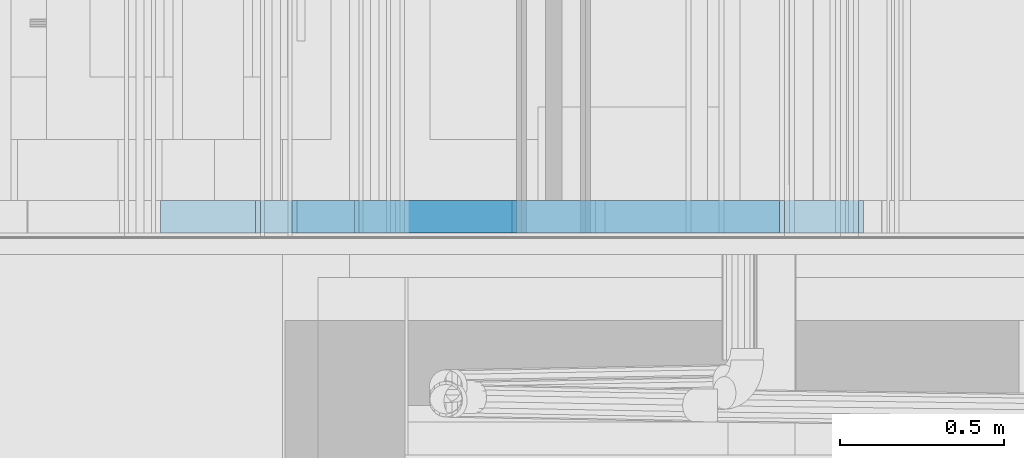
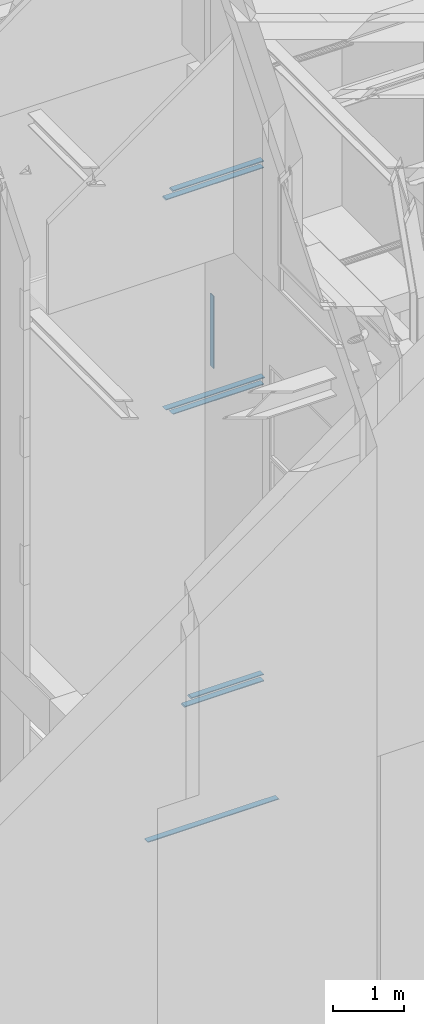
# One storey, part 40 of 583: 8 building element parts, 5 elements without a shape of their own.
"""IFC2X3 building model written with IfcOpenShell, lengths in metres."""

import ifcopenshell
import ifcopenshell.guid

model = None  # the IFC model being written
_history = None  # IfcOwnerHistory: only IFC2X3 demands one
_inside = {}  # id of a spatial element -> (the spatial element, [elements in it])
_under = {}  # id of a project, library or spatial element -> (it, [spatial elements below it])
_declared = {}  # id of a project -> (the project, [libraries it declares])
_typed = {}  # id of a type object -> (the type object, [elements of that type])
_made_of = {}  # id of a material, layer set ... -> (it, [elements and type objects made of it])


def new_model(schema):
    """Start an empty IFC model of exactly this schema.

    Asked for "IFC4X3", IfcOpenShell would pick the latest addendum, in which some entities
    have other attributes; the version numbers below select the first issue.
    IFC2X3 requires an IfcOwnerHistory on every rooted entity: one is made here for all.
    """
    global model, _history
    if schema == "IFC4X3":
        model = ifcopenshell.file(schema_version=(4, 3, 0, 0))
    else:
        model = ifcopenshell.file(schema=schema)
    _inside.clear()
    _under.clear()
    _declared.clear()
    _typed.clear()
    _made_of.clear()
    _history = None
    if model.schema == "IFC2X3":
        org = make("IfcOrganization", Name="unknown")
        user = make(
            "IfcPersonAndOrganization",
            ThePerson=make("IfcPerson", FamilyName="unknown"),
            TheOrganization=org,
        )
        app = make(
            "IfcApplication",
            ApplicationDeveloper=org,
            Version="unknown",
            ApplicationFullName="unknown",
            ApplicationIdentifier="unknown",
        )
        _history = make(
            "IfcOwnerHistory",
            OwningUser=user,
            OwningApplication=app,
            ChangeAction="ADDED",
            CreationDate=0,
        )
    return model


def make(cls, **values):
    """One entity of the class cls with the attributes given. An attribute that is None is left unset."""
    return model.create_entity(
        cls, **{name: value for name, value in values.items() if value is not None}
    )


def entity(cls, *values):
    """Any entity or typed value of the class cls, its attributes in the order of the schema. None: left unset."""
    e = model.create_entity(cls)
    for i, value in enumerate(values):
        if value is not None:
            e[i] = value
    return e


def rooted(cls, **values):
    """An entity with a GlobalId (a new one), such as an element, a storey or a relation."""
    return make(cls, GlobalId=ifcopenshell.guid.new(), OwnerHistory=_history, **values)


def si_unit(unit_type, name, prefix=None):
    """IfcSIUnit, for example si_unit("LENGTHUNIT", "METRE", prefix="MILLI")."""
    return make("IfcSIUnit", UnitType=unit_type, Prefix=prefix, Name=name)


def converted_unit(unit_type, name, factor, base, dimensions=None, offset=None):
    """IfcConversionBasedUnit, such as the inch: factor (a typed value) times the base unit."""
    return make(
        "IfcConversionBasedUnit"
        if offset is None
        else "IfcConversionBasedUnitWithOffset",
        ConversionOffset=offset,
        Dimensions=None
        if dimensions is None
        else entity("IfcDimensionalExponents", *dimensions),
        UnitType=unit_type,
        Name=name,
        ConversionFactor=make(
            "IfcMeasureWithUnit", ValueComponent=factor, UnitComponent=base
        ),
    )


def derived_unit(unit_type, elements):
    """IfcDerivedUnit: a product of units, each with its exponent."""
    return make(
        "IfcDerivedUnit",
        Elements=[
            make("IfcDerivedUnitElement", Unit=unit, Exponent=power)
            for unit, power in elements
        ],
        UnitType=unit_type,
    )


def money_unit(currency):
    """IfcMonetaryUnit."""
    return make("IfcMonetaryUnit", Currency=currency)


def assignment(units):
    """IfcUnitAssignment: the units of a project."""
    return None if units is None else make("IfcUnitAssignment", Units=units)


def point(xyz):
    """IfcCartesianPoint."""
    return None if xyz is None else make("IfcCartesianPoint", Coordinates=xyz)


def direction(xyz):
    """IfcDirection."""
    return None if xyz is None else make("IfcDirection", DirectionRatios=xyz)


def frame(location, z_axis=None, x_axis=None):
    """IfcAxis2Placement3D, a coordinate frame: its origin and axes. An axis left out is left unset."""
    return make(
        "IfcAxis2Placement3D",
        Location=point(location),
        Axis=direction(z_axis),
        RefDirection=direction(x_axis),
    )


def frame_2d(location, x_axis=None):
    """IfcAxis2Placement2D, a coordinate frame in the plane: its origin and x axis."""
    return make(
        "IfcAxis2Placement2D", Location=point(location), RefDirection=direction(x_axis)
    )


def origin_with_axes():
    """The frame at (0, 0, 0) with the z axis (0, 0, 1) and the x axis (1, 0, 0) written out."""
    return frame((0.0, 0.0, 0.0), z_axis=(0.0, 0.0, 1.0), x_axis=(1.0, 0.0, 0.0))


def place(relative_to, where):
    """IfcLocalPlacement: puts the frame where relative to a parent placement (None: the world)."""
    return make(
        "IfcLocalPlacement", PlacementRelTo=relative_to, RelativePlacement=where
    )


def context(
    kind, dimensions, precision=None, world=None, true_north=None, identifier=None
):
    """IfcGeometricRepresentationContext, for example the 3D "Model" context."""
    return make(
        "IfcGeometricRepresentationContext",
        ContextIdentifier=identifier,
        ContextType=kind,
        CoordinateSpaceDimension=dimensions,
        Precision=precision,
        WorldCoordinateSystem=world,
        TrueNorth=true_north,
    )


def subcontext(parent, identifier, kind, view, scale=None):
    """IfcGeometricRepresentationSubContext, for example "Body" below "Model"."""
    return make(
        "IfcGeometricRepresentationSubContext",
        ContextIdentifier=identifier,
        ContextType=kind,
        ParentContext=parent,
        TargetScale=scale,
        TargetView=view,
    )


def project(units=None, contexts=None):
    """IfcProject with its units and contexts."""
    return rooted(
        "IfcProject",
        Name="project",
        RepresentationContexts=contexts,
        UnitsInContext=assignment(units),
    )


def spatial(cls, under=None, at=None, **own):
    """A site, building, storey or space (cls), placed at a placement, below another one or the project."""
    s = rooted(cls, ObjectPlacement=at, **own)
    if under is not None:
        _under.setdefault(under.id(), (under, []))[1].append(s)
    return s


def polyline(points):
    """IfcPolyline through the points."""
    return make("IfcPolyline", Points=[point(p) for p in points])


def profile(cls, at=None, kind="AREA", **sizes):
    """A parametric profile (cls). Its sizes go by their IFC names, for example OverallWidth=200.0."""
    return make(cls, ProfileType=kind, Position=at, **sizes)


def rectangle(**sizes):
    """IfcRectangleProfileDef."""
    return profile("IfcRectangleProfileDef", **sizes)


def outline(outer, holes=None, kind="AREA"):
    """IfcArbitraryClosedProfileDef: a profile drawn as a closed curve; with holes, ...WithVoids."""
    if holes is None:
        return make("IfcArbitraryClosedProfileDef", ProfileType=kind, OuterCurve=outer)
    return make(
        "IfcArbitraryProfileDefWithVoids",
        ProfileType=kind,
        OuterCurve=outer,
        InnerCurves=holes,
    )


def extrude(swept, where, along, depth):
    """IfcExtrudedAreaSolid: the profile swept, set in the frame where, extruded along a direction by depth."""
    return make(
        "IfcExtrudedAreaSolid",
        SweptArea=swept,
        Position=where,
        ExtrudedDirection=direction(along),
        Depth=depth,
    )


def shape(context_of_items, identifier, shape_type, items):
    """IfcShapeRepresentation: the items that make up one representation, for example the "Body"."""
    return make(
        "IfcShapeRepresentation",
        ContextOfItems=context_of_items,
        RepresentationIdentifier=identifier,
        RepresentationType=shape_type,
        Items=items,
    )


def material(Name=None, Category=None):
    """IfcMaterial."""
    return make("IfcMaterial", Name=Name, Category=Category)


def made_of(thing, what):
    """Note that an element or type object is made of a material, layer set ...; save() writes the relation."""
    if what is not None:
        _made_of.setdefault(what.id(), (what, []))[1].append(thing)
    return thing


def type_object(cls, material=None, **own):
    """A type object (cls), such as IfcWallType, which elements share."""
    return made_of(rooted(cls, **own), material)


def element(
    cls,
    number,
    at=None,
    inside=None,
    cuts=None,
    type_object=None,
    material=None,
    context=None,
    identifier="Body",
    shape_type=None,
    held_by="IfcProductDefinitionShape",
    body=None,
    shapes=None,
    **own,
):
    """One element of the class cls, such as IfcWall. Its Tag is "e" and its number.

    at: its placement. inside: the storey or other place that contains it. cuts: it is an
    opening in that element (IfcRelVoidsElement). A single representation is given by context,
    identifier, shape_type and body (its items); several are given by shapes. held_by: the class
    of the entity that holds the representations. save() writes the other relations.
    """
    e = rooted(cls, Tag="e%d" % number, ObjectPlacement=at, **own)
    if body is not None:
        shapes = [shape(context, identifier, shape_type, body)]
    if shapes is not None:
        e.Representation = make(held_by, Representations=shapes)
    if inside is not None:
        _inside.setdefault(inside.id(), (inside, []))[1].append(e)
    if cuts is not None:
        rooted(
            "IfcRelVoidsElement", RelatingBuildingElement=cuts, RelatedOpeningElement=e
        )
    if type_object is not None:
        _typed.setdefault(type_object.id(), (type_object, []))[1].append(e)
    return made_of(e, material)


def aggregate(whole, parts):
    """IfcRelAggregates: a whole, such as a stair, and the parts it consists of."""
    return rooted("IfcRelAggregates", RelatingObject=whole, RelatedObjects=parts)


def save(model, path):
    """Write the relations noted so far, then the file.

    IfcRelAggregates (storeys below a building ...), IfcRelContainedInSpatialStructure (elements
    in a storey), IfcRelDefinesByType, IfcRelAssociatesMaterial and IfcRelDeclares: one each for
    every whole, place, type object, material and project.
    """
    for whole, parts in _under.values():
        aggregate(whole, parts)
    for where, things in _inside.values():
        rooted(
            "IfcRelContainedInSpatialStructure",
            RelatedElements=things,
            RelatingStructure=where,
        )
    for kind, things in _typed.values():
        rooted("IfcRelDefinesByType", RelatedObjects=things, RelatingType=kind)
    for what, things in _made_of.values():
        rooted("IfcRelAssociatesMaterial", RelatedObjects=things, RelatingMaterial=what)
    for by, libraries in _declared.values():
        rooted("IfcRelDeclares", RelatingContext=by, RelatedDefinitions=libraries)
    model.write(path)


model = new_model("IFC2X3")

# Units and contexts
model_context = context("Model", 3, precision=1e-05, world=origin_with_axes(), true_north=direction((0.0, 1.0)))
body_context = subcontext(model_context, "Body", "Model", "MODEL_VIEW", scale=1.0)
ifc_project = project(units=[si_unit("LENGTHUNIT", "METRE"), si_unit("AREAUNIT", "SQUARE_METRE"), si_unit("VOLUMEUNIT", "CUBIC_METRE"), si_unit("ABSORBEDDOSEUNIT", "GRAY"), si_unit("AMOUNTOFSUBSTANCEUNIT", "MOLE"), si_unit("DOSEEQUIVALENTUNIT", "SIEVERT"), si_unit("ELECTRICCAPACITANCEUNIT", "FARAD"), si_unit("ELECTRICCHARGEUNIT", "COULOMB"), si_unit("ELECTRICCONDUCTANCEUNIT", "SIEMENS"), si_unit("ELECTRICCURRENTUNIT", "AMPERE"), si_unit("ELECTRICRESISTANCEUNIT", "OHM"), si_unit("ELECTRICVOLTAGEUNIT", "VOLT"), si_unit("ENERGYUNIT", "JOULE"), si_unit("FORCEUNIT", "NEWTON"), si_unit("FREQUENCYUNIT", "HERTZ"), si_unit("ILLUMINANCEUNIT", "LUX"), si_unit("INDUCTANCEUNIT", "HENRY"), si_unit("LUMINOUSFLUXUNIT", "LUMEN"), si_unit("LUMINOUSINTENSITYUNIT", "CANDELA"), si_unit("MAGNETICFLUXDENSITYUNIT", "TESLA"), si_unit("MAGNETICFLUXUNIT", "WEBER"), si_unit("MASSUNIT", "GRAM"), converted_unit("PLANEANGLEUNIT", "degree", entity("IfcReal", 0.0174532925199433), si_unit("PLANEANGLEUNIT", "RADIAN"), dimensions=[0, 0, 0, 0, 0, 0, 0]), si_unit("POWERUNIT", "WATT"), si_unit("PRESSUREUNIT", "PASCAL"), si_unit("RADIOACTIVITYUNIT", "BECQUEREL"), si_unit("SOLIDANGLEUNIT", "STERADIAN"), si_unit("THERMODYNAMICTEMPERATUREUNIT", "KELVIN"), si_unit("TIMEUNIT", "SECOND"), derived_unit("ACCELERATIONUNIT", [(si_unit("LENGTHUNIT", "METRE"), 1), (si_unit("TIMEUNIT", "SECOND"), -2)]), derived_unit("ANGULARVELOCITYUNIT", [(converted_unit("PLANEANGLEUNIT", "degree", entity("IfcReal", 0.0174532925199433), si_unit("PLANEANGLEUNIT", "RADIAN"), dimensions=[0, 0, 0, 0, 0, 0, 0]), 1), (si_unit("TIMEUNIT", "SECOND"), -1)]), derived_unit("CURVATUREUNIT", [(converted_unit("PLANEANGLEUNIT", "degree", entity("IfcReal", 0.0174532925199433), si_unit("PLANEANGLEUNIT", "RADIAN"), dimensions=[0, 0, 0, 0, 0, 0, 0]), 1), (si_unit("LENGTHUNIT", "METRE"), -1)]), derived_unit("DYNAMICVISCOSITYUNIT", [(si_unit("PRESSUREUNIT", "PASCAL"), 1), (si_unit("TIMEUNIT", "SECOND"), 1)]), derived_unit("HEATFLUXDENSITYUNIT", [(si_unit("POWERUNIT", "WATT"), 1), (si_unit("LENGTHUNIT", "METRE"), -2)]), derived_unit("HEATINGVALUEUNIT", [(si_unit("ENERGYUNIT", "JOULE"), 1), (si_unit("MASSUNIT", "GRAM"), -1)]), derived_unit("INTEGERCOUNTRATEUNIT", [(si_unit("TIMEUNIT", "SECOND"), -1)]), derived_unit("IONCONCENTRATIONUNIT", [(si_unit("MASSUNIT", "GRAM"), 1), (si_unit("VOLUMEUNIT", "CUBIC_METRE"), -1)]), derived_unit("ISOTHERMALMOISTURECAPACITYUNIT", [(si_unit("VOLUMEUNIT", "CUBIC_METRE"), 1), (si_unit("MASSUNIT", "GRAM"), -1)]), derived_unit("KINEMATICVISCOSITYUNIT", [(si_unit("AREAUNIT", "SQUARE_METRE"), 1), (si_unit("TIMEUNIT", "SECOND"), -1)]), derived_unit("LINEARFORCEUNIT", [(si_unit("FORCEUNIT", "NEWTON"), 1), (si_unit("LENGTHUNIT", "METRE"), -1)]), derived_unit("LINEARMOMENTUNIT", [(si_unit("FORCEUNIT", "NEWTON"), 1), (si_unit("LENGTHUNIT", "METRE"), -1)]), derived_unit("LINEARSTIFFNESSUNIT", [(si_unit("FORCEUNIT", "NEWTON"), 1), (si_unit("LENGTHUNIT", "METRE"), -1)]), derived_unit("LINEARVELOCITYUNIT", [(si_unit("LENGTHUNIT", "METRE"), 1), (si_unit("TIMEUNIT", "SECOND"), -1)]), derived_unit("LUMINOUSINTENSITYDISTRIBUTIONUNIT", [(si_unit("LUMINOUSINTENSITYUNIT", "CANDELA"), 1), (si_unit("LUMINOUSFLUXUNIT", "LUMEN"), -1)]), derived_unit("MASSDENSITYUNIT", [(si_unit("MASSUNIT", "GRAM"), 1), (si_unit("VOLUMEUNIT", "CUBIC_METRE"), -1)]), derived_unit("MASSFLOWRATEUNIT", [(si_unit("MASSUNIT", "GRAM"), 1), (si_unit("TIMEUNIT", "SECOND"), -1)]), derived_unit("MASSPERLENGTHUNIT", [(si_unit("MASSUNIT", "GRAM"), 1), (si_unit("LENGTHUNIT", "METRE"), -1)]), derived_unit("MODULUSOFELASTICITYUNIT", [(si_unit("FORCEUNIT", "NEWTON"), 1), (si_unit("AREAUNIT", "SQUARE_METRE"), -1)]), derived_unit("MODULUSOFLINEARSUBGRADEREACTIONUNIT", [(si_unit("FORCEUNIT", "NEWTON"), 1), (si_unit("LENGTHUNIT", "METRE"), -2)]), derived_unit("MODULUSOFROTATIONALSUBGRADEREACTIONUNIT", [(si_unit("FORCEUNIT", "NEWTON"), 1), (si_unit("LENGTHUNIT", "METRE"), 1)]), derived_unit("MODULUSOFSUBGRADEREACTIONUNIT", [(si_unit("FORCEUNIT", "NEWTON"), 1), (si_unit("VOLUMEUNIT", "CUBIC_METRE"), -1)]), derived_unit("MOISTUREDIFFUSIVITYUNIT", [(si_unit("VOLUMEUNIT", "CUBIC_METRE"), 1), (si_unit("TIMEUNIT", "SECOND"), -1)]), derived_unit("MOLECULARWEIGHTUNIT", [(si_unit("MASSUNIT", "GRAM"), 1), (si_unit("AMOUNTOFSUBSTANCEUNIT", "MOLE"), -1)]), derived_unit("PLANARFORCEUNIT", [(si_unit("FORCEUNIT", "NEWTON"), 1), (si_unit("LENGTHUNIT", "METRE"), -2)]), derived_unit("ROTATIONALFREQUENCYUNIT", [(si_unit("TIMEUNIT", "SECOND"), -1)]), derived_unit("ROTATIONALMASSUNIT", [(si_unit("MASSUNIT", "GRAM"), 1), (si_unit("LENGTHUNIT", "METRE"), 2)]), derived_unit("ROTATIONALSTIFFNESSUNIT", [(si_unit("FORCEUNIT", "NEWTON"), 1), (si_unit("LENGTHUNIT", "METRE"), 1), (converted_unit("PLANEANGLEUNIT", "degree", entity("IfcReal", 0.0174532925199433), si_unit("PLANEANGLEUNIT", "RADIAN"), dimensions=[0, 0, 0, 0, 0, 0, 0]), -1)]), derived_unit("SECTIONAREAINTEGRALUNIT", [(si_unit("LENGTHUNIT", "METRE"), 5)]), derived_unit("SECTIONMODULUSUNIT", [(si_unit("LENGTHUNIT", "METRE"), 3)]), derived_unit("SHEARMODULUSUNIT", [(si_unit("FORCEUNIT", "NEWTON"), 1), (si_unit("AREAUNIT", "SQUARE_METRE"), -1)]), derived_unit("SOUNDPOWERUNIT", [(si_unit("ENERGYUNIT", "JOULE"), 1), (si_unit("TIMEUNIT", "SECOND"), -1)]), derived_unit("SPECIFICHEATCAPACITYUNIT", [(si_unit("FORCEUNIT", "NEWTON"), 1), (si_unit("MASSUNIT", "GRAM"), -1), (si_unit("THERMODYNAMICTEMPERATUREUNIT", "KELVIN"), -1)]), derived_unit("TEMPERATUREGRADIENTUNIT", [(si_unit("THERMODYNAMICTEMPERATUREUNIT", "KELVIN"), 1), (si_unit("LENGTHUNIT", "METRE"), -1)]), derived_unit("THERMALADMITTANCEUNIT", [(si_unit("POWERUNIT", "WATT"), 1), (si_unit("AREAUNIT", "SQUARE_METRE"), -1), (si_unit("THERMODYNAMICTEMPERATUREUNIT", "KELVIN"), -1)]), derived_unit("THERMALCONDUCTANCEUNIT", [(si_unit("POWERUNIT", "WATT"), 1), (si_unit("LENGTHUNIT", "METRE"), -1), (si_unit("THERMODYNAMICTEMPERATUREUNIT", "KELVIN"), -1)]), derived_unit("THERMALEXPANSIONCOEFFICIENTUNIT", [(si_unit("THERMODYNAMICTEMPERATUREUNIT", "KELVIN"), -1)]), derived_unit("THERMALRESISTANCEUNIT", [(si_unit("AREAUNIT", "SQUARE_METRE"), 1), (si_unit("POWERUNIT", "WATT"), -1)]), derived_unit("THERMALTRANSMITTANCEUNIT", [(si_unit("POWERUNIT", "WATT"), 1), (si_unit("AREAUNIT", "SQUARE_METRE"), -1), (si_unit("THERMODYNAMICTEMPERATUREUNIT", "KELVIN"), -1)]), derived_unit("TORQUEUNIT", [(si_unit("FORCEUNIT", "NEWTON"), 1), (si_unit("LENGTHUNIT", "METRE"), 1)]), derived_unit("VAPORPERMEABILITYUNIT", [(si_unit("MASSUNIT", "GRAM"), 1), (si_unit("TIMEUNIT", "SECOND"), -1)]), derived_unit("VOLUMETRICFLOWRATEUNIT", [(si_unit("VOLUMEUNIT", "CUBIC_METRE"), 1), (si_unit("TIMEUNIT", "SECOND"), -1)]), derived_unit("WARPINGCONSTANTUNIT", [(si_unit("LENGTHUNIT", "METRE"), 6)]), derived_unit("WARPINGMOMENTUNIT", [(si_unit("FORCEUNIT", "NEWTON"), 1), (si_unit("LENGTHUNIT", "METRE"), 2)]), money_unit("GBP")], contexts=[model_context])

# Site, building, storey
site_placement = place(None, origin_with_axes())
site = spatial("IfcSite", under=ifc_project, at=site_placement, Name="Site", CompositionType="ELEMENT")
building_placement = place(site_placement, origin_with_axes())
building = spatial("IfcBuilding", under=site, at=building_placement, Name="Building01", CompositionType="ELEMENT")
storey_placement = place(building_placement, frame((0.0, 0.0, 20.78), z_axis=(0.0, 0.0, 1.0), x_axis=(1.0, 0.0, 0.0)))
storey = spatial("IfcBuildingStorey", under=building, at=storey_placement, Name="RL", CompositionType="ELEMENT", Elevation=20.78)

# Wall, building element part
wall_type_1 = type_object("IfcWallType", Name="SHE_A-Walls_Type01c_Partywall_225mm_twin_tall", PredefinedType="NOTDEFINED")
wall_1_placement = place(storey_placement, frame((4.302428, 5.15, -8.492), z_axis=(0.0, 1.0, 0.0), x_axis=(0.0, 0.0, 1.0)))
wall_1 = element("IfcWall", 1, at=wall_1_placement, inside=storey, type_object=wall_type_1, Name="1C", ObjectType="SHE_A-Walls_Type01c_Partywall_225mm_twin_tall")
ifc_material = material(Name="A_BSUK_Walls_Timber")
building_element_part_1_placement = place(wall_1_placement, origin_with_axes())
building_element_part_1 = element("IfcBuildingElementPart", 2, at=building_element_part_1_placement, material=ifc_material, Name="7", context=body_context, shape_type="SweptSolid", body=[
    extrude(rectangle(XDim=1.2375, YDim=0.015, at=frame_2d((0.46575, -0.1455), x_axis=(-1.0, 0.0))), frame((0.0, 0.0, 0.015), z_axis=(0.0, 0.0, 1.0), x_axis=(1.0, 0.0, 0.0)), (0.0, 0.0, 1.0), 0.1),
])
aggregate(wall_1, [building_element_part_1])

wall_2_placement = place(storey_placement, frame((0.306, 5.15, -16.258), z_axis=(0.0, 1.0, 0.0), x_axis=(1.0, 0.0, 0.0)))
wall_2 = element("IfcWall", 3, at=wall_2_placement, inside=storey, type_object=wall_type_1, Name="1C", ObjectType="SHE_A-Walls_Type01c_Partywall_225mm_twin_tall")
building_element_part_2_placement = place(wall_2_placement, origin_with_axes())
building_element_part_2 = element("IfcBuildingElementPart", 4, at=building_element_part_2_placement, material=ifc_material, Name="8", context=body_context, shape_type="SweptSolid", body=[
    extrude(outline(polyline([(4.914, 0.152), (2.774286, 0.152), (2.774286, 0.137), (4.899, 0.137), (4.914, 0.152)])), frame((0.0, 0.0, 0.015), z_axis=(0.0, 0.0, 1.0), x_axis=(1.0, 0.0, 0.0)), (0.0, 0.0, 1.0), 0.1),
])
aggregate(wall_2, [building_element_part_2])

# Wall, building element parts
wall_type_2 = type_object("IfcWallType", Name="SHE_A-Walls_Type05a_Partition_95mm_tall", PredefinedType="NOTDEFINED")
wall_3_placement = place(storey_placement, frame((3.42, 5.15, -5.4325), z_axis=(0.0, 1.0, 0.0), x_axis=(1.0, 0.0, 0.0)))
wall_3 = element("IfcWall", 5, at=wall_3_placement, inside=storey, type_object=wall_type_2, Name="5A", ObjectType="SHE_A-Walls_Type05a_Partition_95mm_tall")
placement_1 = place(wall_3_placement, origin_with_axes())
building_element_part_3 = element("IfcBuildingElementPart", 6, at=placement_1, material=ifc_material, Name="2", context=body_context, shape_type="SweptSolid", body=[
    extrude(outline(polyline([(1.545, 0.05), (-0.05, 0.05), (-0.035, 0.035), (1.545, 0.035), (1.545, 0.05)])), frame((0.0, 0.0, 0.015), z_axis=(0.0, 0.0, 1.0), x_axis=(1.0, 0.0, 0.0)), (0.0, 0.0, 1.0), 0.1),
])
building_element_part_4 = element("IfcBuildingElementPart", 7, at=placement_1, material=ifc_material, Name="3", context=body_context, shape_type="SweptSolid", body=[
    extrude(outline(polyline([(1.545, -0.06), (0.06, -0.06), (0.075, -0.075), (1.545, -0.075), (1.545, -0.06)])), frame((0.0, 0.0, 0.015), z_axis=(0.0, 0.0, 1.0), x_axis=(1.0, 0.0, 0.0)), (0.0, 0.0, 1.0), 0.1),
])
aggregate(wall_3, [building_element_part_3, building_element_part_4])

wall_4_placement = place(storey_placement, frame((3.42, 5.15, -9.127464), z_axis=(0.0, 1.0, 0.0), x_axis=(-1.0, 0.0, 0.0)))
wall_4 = element("IfcWall", 8, at=wall_4_placement, inside=storey, type_object=wall_type_2, Name="5A", ObjectType="SHE_A-Walls_Type05a_Partition_95mm_tall")
placement_2 = place(wall_4_placement, origin_with_axes())
building_element_part_5 = element("IfcBuildingElementPart", 9, at=placement_2, material=ifc_material, Name="2", context=body_context, shape_type="SweptSolid", body=[
    extrude(outline(polyline([(-1.56, 0.035), (0.035, 0.035), (0.05, 0.05), (-1.56, 0.05), (-1.56, 0.035)])), frame((0.0, 0.0, 0.015), z_axis=(0.0, 0.0, 1.0), x_axis=(1.0, 0.0, 0.0)), (0.0, 0.0, 1.0), 0.1),
])
building_element_part_6 = element("IfcBuildingElementPart", 10, at=placement_2, material=ifc_material, Name="3", context=body_context, shape_type="SweptSolid", body=[
    extrude(outline(polyline([(-1.545, -0.075), (-0.075, -0.075), (-0.06, -0.06), (-1.545, -0.06), (-1.545, -0.075)])), frame((0.0, 0.0, 0.015), z_axis=(0.0, 0.0, 1.0), x_axis=(1.0, 0.0, 0.0)), (0.0, 0.0, 1.0), 0.1),
])
aggregate(wall_4, [building_element_part_5, building_element_part_6])

wall_5_placement = place(storey_placement, frame((3.72, 5.15, -14.245), z_axis=(0.0, 1.0, 0.0), x_axis=(1.0, 0.0, 0.0)))
wall_5 = element("IfcWall", 11, at=wall_5_placement, inside=storey, type_object=wall_type_2, Name="5A", ObjectType="SHE_A-Walls_Type05a_Partition_95mm_tall")
placement_3 = place(wall_5_placement, origin_with_axes())
building_element_part_7 = element("IfcBuildingElementPart", 12, at=placement_3, material=ifc_material, Name="2", context=body_context, shape_type="SweptSolid", body=[
    extrude(outline(polyline([(1.245, 0.05), (-0.05, 0.05), (-0.035, 0.035), (1.245, 0.035), (1.245, 0.05)])), frame((0.0, 0.0, 0.015), z_axis=(0.0, 0.0, 1.0), x_axis=(1.0, 0.0, 0.0)), (0.0, 0.0, 1.0), 0.1),
])
building_element_part_8 = element("IfcBuildingElementPart", 13, at=placement_3, material=ifc_material, Name="3", context=body_context, shape_type="SweptSolid", body=[
    extrude(outline(polyline([(1.245, -0.06), (0.06, -0.06), (0.075, -0.075), (1.245, -0.075), (1.245, -0.06)])), frame((0.0, 0.0, 0.015), z_axis=(0.0, 0.0, 1.0), x_axis=(1.0, 0.0, 0.0)), (0.0, 0.0, 1.0), 0.1),
])
aggregate(wall_5, [building_element_part_7, building_element_part_8])

save(model, "model.ifc")
